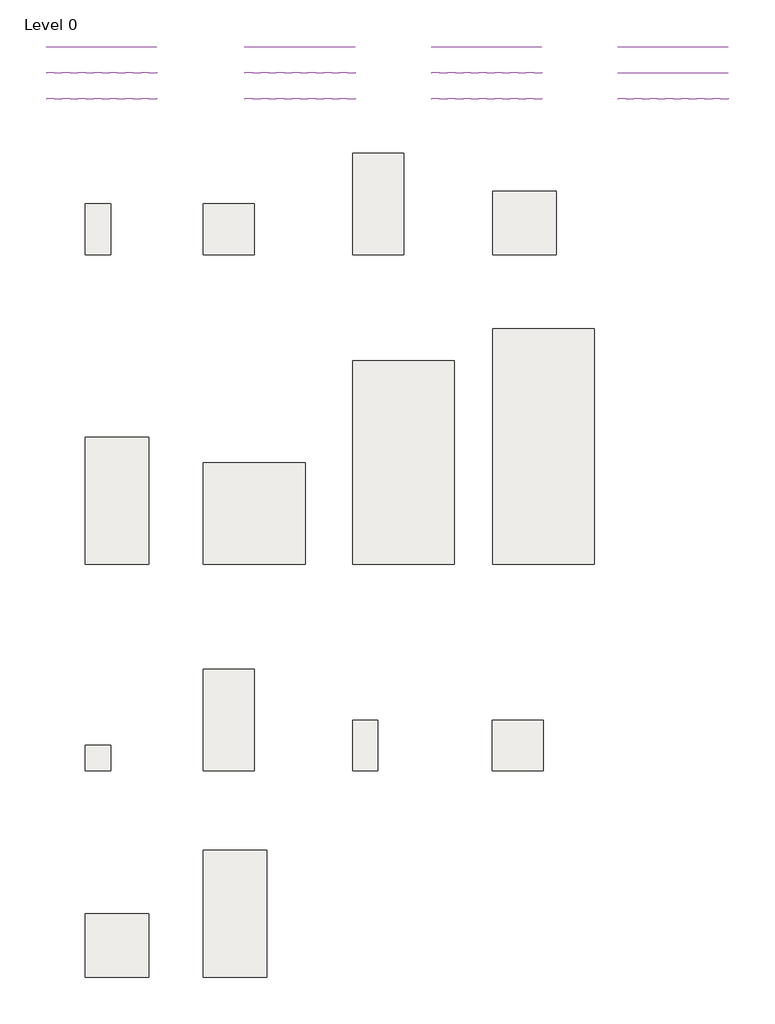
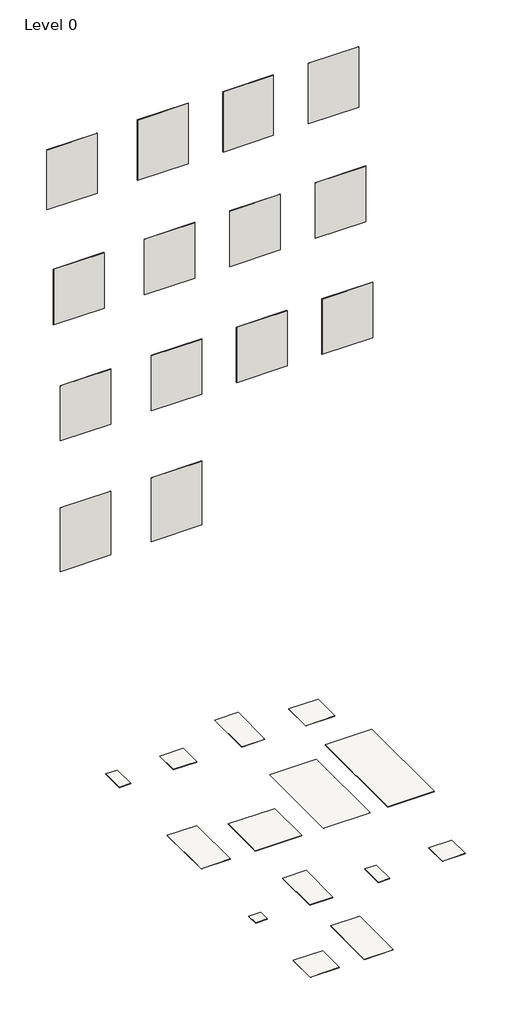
# One storey: 14 slabs, 14 walls.
"""IFC4 building model written with IfcOpenShell, lengths in millimetres."""

from ifc_helpers import new_model, si_unit, frame, origin, place, context, project, spatial, polyline, outline, extrude, element, save

model = new_model("IFC4")

# Units and contexts
model_context = context("Model", 3, world=origin())
ifc_project = project(units=[si_unit("LENGTHUNIT", "METRE", prefix="MILLI")], contexts=[model_context])

# Site, building, storey
site = spatial("IfcSite", under=ifc_project)
building = spatial("IfcBuilding", under=site)
storey = spatial("IfcBuildingStorey", under=building, Name="Level 0", Elevation=0.0)

# Slabs
placement = place(None, origin())
element("IfcSlab", 1, ObjectType="Floor_Tiles_Refin-Prestigio-Arcadia-Lucido-60x120 NS01", at=placement, inside=storey, context=model_context, shape_type="SweptSolid", body=[
    extrude(outline(polyline([(10127.1861419, 6889.4623743), (10127.1861419, 5689.4623743), (9527.1861419, 5689.4623743), (9527.1861419, 6889.4623743), (10127.1861419, 6889.4623743)])), frame((0.0, 0.0, -10.0), z_axis=(0.0, 0.0, 1.0), x_axis=(1.0, 0.0, 0.0)), (0.0, 0.0, 1.0), 10.0),
])
element("IfcSlab", 2, ObjectType="Floor_Tiles_Refin-Prestigio-Arcadia-Lucido-30x60 NG99", at=placement, inside=storey, context=model_context, shape_type="SweptSolid", body=[
    extrude(outline(polyline([(6674.3752062, 6289.4623743), (6674.3752062, 5689.4623743), (6374.3752062, 5689.4623743), (6374.3752062, 6289.4623743), (6674.3752062, 6289.4623743)])), frame((0.0, 0.0, -10.0), z_axis=(0.0, 0.0, 1.0), x_axis=(1.0, 0.0, 0.0)), (0.0, 0.0, 1.0), 10.0),
])
element("IfcSlab", 3, ObjectType="Floor_Tiles_Refin-Prestigio-Arcadia-Lucido-120x240 MU09", at=placement, inside=storey, context=model_context, shape_type="SweptSolid", body=[
    extrude(outline(polyline([(10727.1861419, 4439.4623743), (10727.1861419, 2039.4623743), (9527.1861419, 2039.4623743), (9527.1861419, 4439.4623743), (10727.1861419, 4439.4623743)])), frame((0.0, 0.0, -10.0), z_axis=(0.0, 0.0, 1.0), x_axis=(1.0, 0.0, 0.0)), (0.0, 0.0, 1.0), 10.0),
])
element("IfcSlab", 4, ObjectType="Floor_Tiles_Refin-Prestigio-Arcadia-Lucido-120x120 MU07", at=placement, inside=storey, context=model_context, shape_type="SweptSolid", body=[
    extrude(outline(polyline([(8967.3924055, 3239.4623743), (8967.3924055, 2039.4623743), (7767.3924055, 2039.4623743), (7767.3924055, 3239.4623743), (8967.3924055, 3239.4623743)])), frame((0.0, 0.0, -10.0), z_axis=(0.0, 0.0, 1.0), x_axis=(1.0, 0.0, 0.0)), (0.0, 0.0, 1.0), 10.0),
])
element("IfcSlab", 5, ObjectType="Floor_Tiles_Refin-Prestigio-Arcadia-Lucido-75x150 LU55", at=placement, inside=storey, context=model_context, shape_type="SweptSolid", body=[
    extrude(outline(polyline([(7124.3752062, 3539.4623743), (7124.3752062, 2039.4623743), (6374.3752062, 2039.4623743), (6374.3752062, 3539.4623743), (7124.3752062, 3539.4623743)])), frame((0.0, 0.0, -10.0), z_axis=(0.0, 0.0, 1.0), x_axis=(1.0, 0.0, 0.0)), (0.0, 0.0, 1.0), 10.0),
])
element("IfcSlab", 6, ObjectType="Floor_Tiles_Refin-Prestigio-Arcadia-Lucido-Mosaico-30x30 LX38", at=placement, inside=storey, context=model_context, shape_type="SweptSolid", body=[
    extrude(outline(polyline([(6672.6009331, -96.5632765), (6672.6009331, -396.5632765), (6372.6009331, -396.5632765), (6372.6009331, -96.5632765), (6672.6009331, -96.5632765)])), frame((0.0, 0.0, -10.0), z_axis=(0.0, 0.0, 1.0), x_axis=(1.0, 0.0, 0.0)), (0.0, 0.0, 1.0), 10.0),
])
element("IfcSlab", 7, ObjectType="Floor_Tiles_Refin-Prestigio-Arcadia-Lucido-60x60 LU91", at=placement, inside=storey, context=model_context, shape_type="SweptSolid", body=[
    extrude(outline(polyline([(8367.3924055, 6288.4192064), (8367.3924055, 5688.4192064), (7767.3924055, 5688.4192064), (7767.3924055, 6288.4192064), (8367.3924055, 6288.4192064)])), frame((0.0, 0.0, -10.0), z_axis=(0.0, 0.0, 1.0), x_axis=(1.0, 0.0, 0.0)), (0.0, 0.0, 1.0), 10.0),
])
element("IfcSlab", 8, ObjectType="Floor_Tiles_Refin-Prestigio-Arcadia-Matt-60x120 NS06", at=placement, inside=storey, context=model_context, shape_type="SweptSolid", body=[
    extrude(outline(polyline([(8365.6181323, 803.4367235), (8365.6181323, -396.5632765), (7765.6181323, -396.5632765), (7765.6181323, 803.4367235), (8365.6181323, 803.4367235)])), frame((0.0, 0.0, -10.0), z_axis=(0.0, 0.0, 1.0), x_axis=(1.0, 0.0, 0.0)), (0.0, 0.0, 1.0), 10.0),
])
element("IfcSlab", 9, ObjectType="Floor_Tiles_Refin-Prestigio-Arcadia-Soft-30x60 NE83", at=placement, inside=storey, context=model_context, shape_type="SweptSolid", body=[
    extrude(outline(polyline([(9825.4118688, 203.4367235), (9825.4118688, -396.5632765), (9525.4118688, -396.5632765), (9525.4118688, 203.4367235), (9825.4118688, 203.4367235)])), frame((0.0, 0.0, -10.0), z_axis=(0.0, 0.0, 1.0), x_axis=(1.0, 0.0, 0.0)), (0.0, 0.0, 1.0), 10.0),
])
element("IfcSlab", 10, ObjectType="Floor_Tiles_Refin-Prestigio-Arcadia-Lucido-75x75 LU87", at=placement, inside=storey, context=model_context, shape_type="SweptSolid", body=[
    extrude(outline(polyline([(11927.1861419, 6439.4623743), (11927.1861419, 5689.4623743), (11177.1861419, 5689.4623743), (11177.1861419, 6439.4623743), (11927.1861419, 6439.4623743)])), frame((0.0, 0.0, -10.0), z_axis=(0.0, 0.0, 1.0), x_axis=(1.0, 0.0, 0.0)), (0.0, 0.0, 1.0), 10.0),
])
element("IfcSlab", 11, ObjectType="Floor_Tiles_Refin-Prestigio-Arcadia-Lucido-120x278 MK92", at=placement, inside=storey, context=model_context, shape_type="SweptSolid", body=[
    extrude(outline(polyline([(12377.1861419, 4819.4623743), (12377.1861419, 2039.4623743), (11177.1861419, 2039.4623743), (11177.1861419, 4819.4623743), (12377.1861419, 4819.4623743)])), frame((0.0, 0.0, -7.0), z_axis=(0.0, 0.0, 1.0), x_axis=(1.0, 0.0, 0.0)), (0.0, 0.0, 1.0), 7.0),
])
element("IfcSlab", 12, ObjectType="Floor_Tiles_Refin-Prestigio-Arcadia-Soft-60x60 LV01", at=placement, inside=storey, context=model_context, shape_type="SweptSolid", body=[
    extrude(outline(polyline([(11775.4118688, 203.4367235), (11775.4118688, -396.5632765), (11175.4118688, -396.5632765), (11175.4118688, 203.4367235), (11775.4118688, 203.4367235)])), frame((0.0, 0.0, -10.0), z_axis=(0.0, 0.0, 1.0), x_axis=(1.0, 0.0, 0.0)), (0.0, 0.0, 1.0), 10.0),
])
element("IfcSlab", 13, ObjectType="Floor_Tiles_Refin-Prestigio-Arcadia-Soft-75x75 LU97", at=placement, inside=storey, context=model_context, shape_type="SweptSolid", body=[
    extrude(outline(polyline([(7122.6009331, -2082.5889273), (7122.6009331, -2832.5889273), (6372.6009331, -2832.5889273), (6372.6009331, -2082.5889273), (7122.6009331, -2082.5889273)])), frame((0.0, 0.0, -10.0), z_axis=(0.0, 0.0, 1.0), x_axis=(1.0, 0.0, 0.0)), (0.0, 0.0, 1.0), 10.0),
])
element("IfcSlab", 14, ObjectType="Floor_Tiles_Refin-Prestigio-Arcadia-Soft-75x150 LU59", at=placement, inside=storey, context=model_context, shape_type="SweptSolid", body=[
    extrude(outline(polyline([(8515.6181323, -1332.5889273), (8515.6181323, -2832.5889273), (7765.6181323, -2832.5889273), (7765.6181323, -1332.5889273), (8515.6181323, -1332.5889273)])), frame((0.0, 0.0, -10.0), z_axis=(0.0, 0.0, 1.0), x_axis=(1.0, 0.0, 0.0)), (0.0, 0.0, 1.0), 10.0),
])

# Walls
element("IfcWall", 15, ObjectType="Wall_Tiles_Refin-Prestigio-Arcadia-Lucido-60x60 LU91", at=placement, inside=storey, context=model_context, shape_type="SweptSolid", body=[
    extrude(outline(polyline([(9557.3752062, 8132.3838631), (8257.3752062, 8132.3838631), (8257.3752062, 8142.3838631), (9557.3752062, 8142.3838631), (9557.3752062, 8132.3838631)])), frame((0.0, 0.0, 14387.6770443), z_axis=(0.0, 0.0, 1.0), x_axis=(1.0, 0.0, 0.0)), (0.0, 0.0, 1.0), 1641.7417352),
])
element("IfcWall", 16, ObjectType="Wall_Tiles_Refin-Prestigio-Arcadia-Lucido-60x120 NS01", at=placement, inside=storey, context=model_context, shape_type="SweptSolid", body=[
    extrude(outline(polyline([(11757.3752062, 8132.3838631), (10457.3752062, 8132.3838631), (10457.3752062, 8142.3838631), (11757.3752062, 8142.3838631), (11757.3752062, 8132.3838631)])), frame((0.0, 0.0, 14387.6770443), z_axis=(0.0, 0.0, 1.0), x_axis=(1.0, 0.0, 0.0)), (0.0, 0.0, 1.0), 1641.7417352),
])
element("IfcWall", 17, ObjectType="Wall_Tiles_Refin-Prestigio-Arcadia-Lucido-30x60 NG99", at=placement, inside=storey, context=model_context, shape_type="SweptSolid", body=[
    extrude(outline(polyline([(7217.3752062, 8132.3838631), (5917.3752062, 8132.3838631), (5917.3752062, 8142.3838631), (7217.3752062, 8142.3838631), (7217.3752062, 8132.3838631)])), frame((0.0, 0.0, 14403.7267346), z_axis=(0.0, 0.0, 1.0), x_axis=(1.0, 0.0, 0.0)), (0.0, 0.0, 1.0), 1625.692045),
])
element("IfcWall", 18, ObjectType="Wall_Tiles_Refin-Prestigio-Arcadia-Lucido-75x150 LU55", at=placement, inside=storey, context=model_context, shape_type="SweptSolid", body=[
    extrude(outline(polyline([(7217.3752062, 7827.3838631), (5917.3752062, 7827.3838631), (5917.3752062, 7837.3838631), (7217.3752062, 7837.3838631), (7217.3752062, 7827.3838631)])), frame((0.0, 0.0, 11452.5436262), z_axis=(0.0, 0.0, 1.0), x_axis=(1.0, 0.0, 0.0)), (0.0, 0.0, 1.0), 1513.1985566),
])
element("IfcWall", 19, ObjectType="Wall_Tiles_Refin-Prestigio-Arcadia-Lucido-120x120 MU07", at=placement, inside=storey, context=model_context, shape_type="SweptSolid", body=[
    extrude(outline(polyline([(9557.3752062, 7827.3838631), (8257.3752062, 7827.3838631), (8257.3752062, 7837.3838631), (9557.3752062, 7837.3838631), (9557.3752062, 7827.3838631)])), frame((0.0, 0.0, 11452.5436262), z_axis=(0.0, 0.0, 1.0), x_axis=(1.0, 0.0, 0.0)), (0.0, 0.0, 1.0), 1513.1985566),
])
element("IfcWall", 20, ObjectType="Wall_Tiles_Refin-Prestigio-Arcadia-Lucido-120x240 MU09", at=placement, inside=storey, context=model_context, shape_type="SweptSolid", body=[
    extrude(outline(polyline([(11757.3752062, 7827.3838631), (10457.3752062, 7827.3838631), (10457.3752062, 7837.3838631), (11757.3752062, 7837.3838631), (11757.3752062, 7827.3838631)])), frame((0.0, 0.0, 11452.5436262), z_axis=(0.0, 0.0, 1.0), x_axis=(1.0, 0.0, 0.0)), (0.0, 0.0, 1.0), 1513.1985566),
])
element("IfcWall", 21, ObjectType="Wall_Tiles_Refin-Prestigio-Arcadia-Lucido-Mosaico-30x30 LX38", at=placement, inside=storey, context=model_context, shape_type="SweptSolid", body=[
    extrude(outline(polyline([(7217.3752062, 7522.3838631), (5917.3752062, 7522.3838631), (5917.3752062, 7532.3838631), (7217.3752062, 7532.3838631), (7217.3752062, 7522.3838631)])), frame((0.0, 0.0, 8479.1027214), z_axis=(0.0, 0.0, 1.0), x_axis=(1.0, 0.0, 0.0)), (0.0, 0.0, 1.0), 1502.5740159),
])
element("IfcWall", 22, ObjectType="Wall_Tiles_Refin-Prestigio-Arcadia-Matt-60x120 NS06", at=placement, inside=storey, context=model_context, shape_type="SweptSolid", body=[
    extrude(outline(polyline([(9557.3752062, 7522.3838631), (8257.3752062, 7522.3838631), (8257.3752062, 7532.3838631), (9557.3752062, 7532.3838631), (9557.3752062, 7522.3838631)])), frame((0.0, 0.0, 8479.1027214), z_axis=(0.0, 0.0, 1.0), x_axis=(1.0, 0.0, 0.0)), (0.0, 0.0, 1.0), 1502.5740159),
])
element("IfcWall", 23, ObjectType="Wall_Tiles_Refin-Prestigio-Arcadia-Soft-30x60 NE83", at=placement, inside=storey, context=model_context, shape_type="SweptSolid", body=[
    extrude(outline(polyline([(11757.3752062, 7522.3838631), (10457.3752062, 7522.3838631), (10457.3752062, 7532.3838631), (11757.3752062, 7532.3838631), (11757.3752062, 7522.3838631)])), frame((0.0, 0.0, 8479.1027214), z_axis=(0.0, 0.0, 1.0), x_axis=(1.0, 0.0, 0.0)), (0.0, 0.0, 1.0), 1502.5740159),
])
element("IfcWall", 24, ObjectType="Wall_Tiles_Refin-Prestigio-Arcadia-Lucido-75x75 LU87", at=placement, inside=storey, context=model_context, shape_type="SweptSolid", body=[
    extrude(outline(polyline([(13957.3752062, 8132.3838631), (12657.3752062, 8132.3838631), (12657.3752062, 8142.3838631), (13957.3752062, 8142.3838631), (13957.3752062, 8132.3838631)])), frame((0.0, 0.0, 14387.6770443), z_axis=(0.0, 0.0, 1.0), x_axis=(1.0, 0.0, 0.0)), (0.0, 0.0, 1.0), 1641.7417352),
])
element("IfcWall", 25, ObjectType="Wall_Tiles_Refin-Prestigio-Arcadia-Lucido-120x278 MK92", at=placement, inside=storey, context=model_context, shape_type="SweptSolid", body=[
    extrude(outline(polyline([(13957.3752062, 7828.8838631), (12657.3752062, 7828.8838631), (12657.3752062, 7835.8838631), (13957.3752062, 7835.8838631), (13957.3752062, 7828.8838631)])), frame((0.0, 0.0, 11452.5436262), z_axis=(0.0, 0.0, 1.0), x_axis=(1.0, 0.0, 0.0)), (0.0, 0.0, 1.0), 1513.1985566),
])
element("IfcWall", 26, ObjectType="Wall_Tiles_Refin-Prestigio-Arcadia-Soft-60x60 LV01", at=placement, inside=storey, context=model_context, shape_type="SweptSolid", body=[
    extrude(outline(polyline([(13957.3752062, 7522.3838631), (12657.3752062, 7522.3838631), (12657.3752062, 7532.3838631), (13957.3752062, 7532.3838631), (13957.3752062, 7522.3838631)])), frame((0.0, 0.0, 8479.1027214), z_axis=(0.0, 0.0, 1.0), x_axis=(1.0, 0.0, 0.0)), (0.0, 0.0, 1.0), 1502.5740159),
])
element("IfcWall", 27, ObjectType="Wall_Tiles_Refin-Prestigio-Arcadia-Soft-75x150 LU59", at=placement, inside=storey, context=model_context, shape_type="SweptSolid", body=[
    extrude(outline(polyline([(9557.3752062, 7522.3838631), (8257.3752062, 7522.3838631), (8257.3752062, 7532.3838631), (9557.3752062, 7532.3838631), (9557.3752062, 7522.3838631)])), frame((0.0, 0.0, 4921.0785975), z_axis=(0.0, 0.0, 1.0), x_axis=(1.0, 0.0, 0.0)), (0.0, 0.0, 1.0), 1733.8430465),
])
element("IfcWall", 28, ObjectType="Wall_Tiles_Refin-Prestigio-Arcadia-Soft-75x75 LU97", at=placement, inside=storey, context=model_context, shape_type="SweptSolid", body=[
    extrude(outline(polyline([(7217.3752062, 7522.3838631), (5917.3752062, 7522.3838631), (5917.3752062, 7532.3838631), (7217.3752062, 7532.3838631), (7217.3752062, 7522.3838631)])), frame((0.0, 0.0, 4921.0785975), z_axis=(0.0, 0.0, 1.0), x_axis=(1.0, 0.0, 0.0)), (0.0, 0.0, 1.0), 1733.8430465),
])

save(model, "model.ifc")
